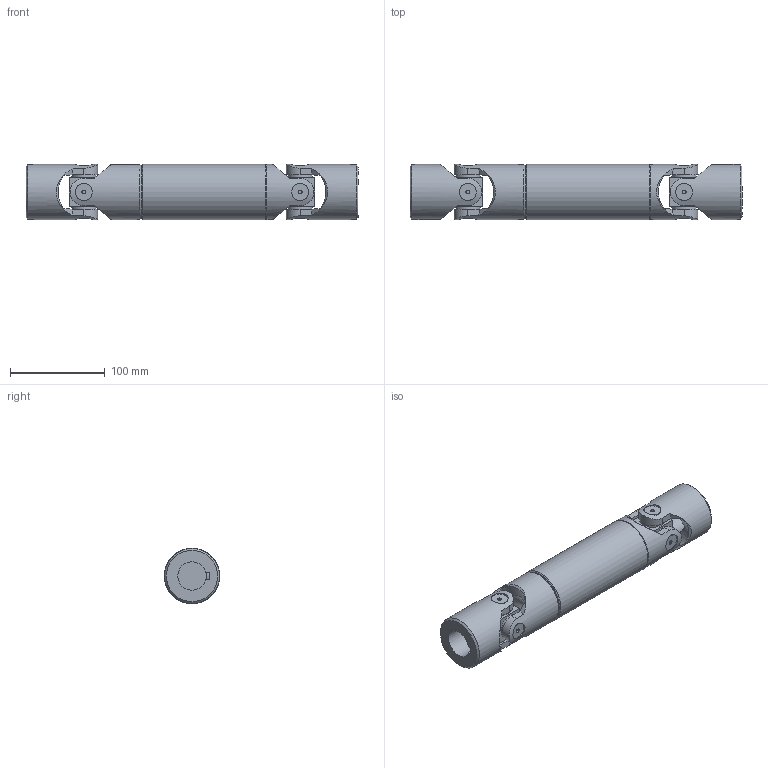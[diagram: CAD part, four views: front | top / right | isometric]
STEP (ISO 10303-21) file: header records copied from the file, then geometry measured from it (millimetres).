
FILE_DESCRIPTION(/* description */ (''),/* implementation_level */ '2;1');
FILE_NAME(/* name */ '\\SRV2016\Societa\Stefano\Disegni 3D\00Catalogo 3D\03Trasmissioni standard GA\6GA15\6GA15_SG0A3015.stp',/* time_stamp */ '2022-02-01T10:18:11+01:00',/* author */ ('acquisti'),/* organization */ (''),/* preprocessor_version */ 'ST-DEVELOPER v15.6',/* originating_system */ 'Autodesk Inventor 2015',/* authorisation */ '');
FILE_SCHEMA (('AUTOMOTIVE_DESIGN { 1 0 10303 214 3 1 1 }'));
Length unit declared in the file: millimetre
Products named in the file (5): 6GA15 LAI; 6GA15 LCI; 6G MOC; 6G SFE; 6GA15_SG0A3015
Assembly tree (6 placements, depth 2):
  6GA15_SG0A3015
    6GA15 LAI
    6GA15 LCI
    6G MOC  x2
    6G SFE  x2
Bounding box: 350 x 58.5 x 58.5 mm (x, y, z)
Volume: 673373 mm3; surface area: 141698.8 mm2
Topology: 6 solids, 6 shells, 220 faces, 561 edges, 377 vertices
Faces by surface type: plane 114, cylinder 77, cone 25, torus 4
Full cylindrical faces by diameter (mm): 4 x8, 18 x8, 26 x8, 30 x1, 32 x2, 49 x1, 58 x4, 58.5 x1
Entity records: 5899 total; most frequent: CARTESIAN_POINT 1695, DIRECTION 847, ORIENTED_EDGE 832, EDGE_CURVE 416, AXIS2_PLACEMENT_3D 331, VERTEX_POINT 300, EDGE_LOOP 228, LINE 185
